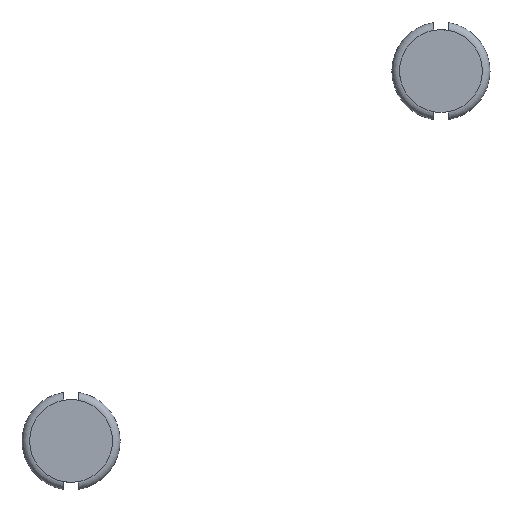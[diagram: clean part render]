
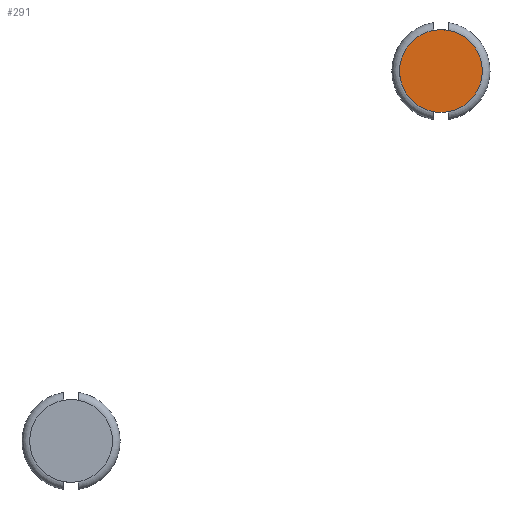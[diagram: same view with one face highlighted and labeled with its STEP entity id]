
A CAD part, front view. The second image highlights one B-rep face of the part: STEP entity #291.
In plain terms, the highlighted planar face has unit normal (0, -1, 0).
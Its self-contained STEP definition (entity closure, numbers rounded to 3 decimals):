
#38=FACE_OUTER_BOUND('',#57,.T.);
#57=EDGE_LOOP('',(#208));
#78=CIRCLE('',#318,2.843);
#131=VERTEX_POINT('',#497);
#162=EDGE_CURVE('',#131,#131,#78,.T.);
#208=ORIENTED_EDGE('',*,*,#162,.T.);
#277=PLANE('',#317);
#291=ADVANCED_FACE('',(#38),#277,.T.);
#317=AXIS2_PLACEMENT_3D('',#496,#368,#369);
#318=AXIS2_PLACEMENT_3D('',#498,#370,#371);
#368=DIRECTION('center_axis',(0.,-1.,0.));
#369=DIRECTION('ref_axis',(1.,0.,0.));
#370=DIRECTION('center_axis',(0.,-1.,0.));
#371=DIRECTION('ref_axis',(1.,0.,0.));
#496=CARTESIAN_POINT('Origin',(-1.6,-3.703,78.567));
#497=CARTESIAN_POINT('',(1.243,-3.703,78.567));
#498=CARTESIAN_POINT('Origin',(-1.6,-3.703,78.567));
